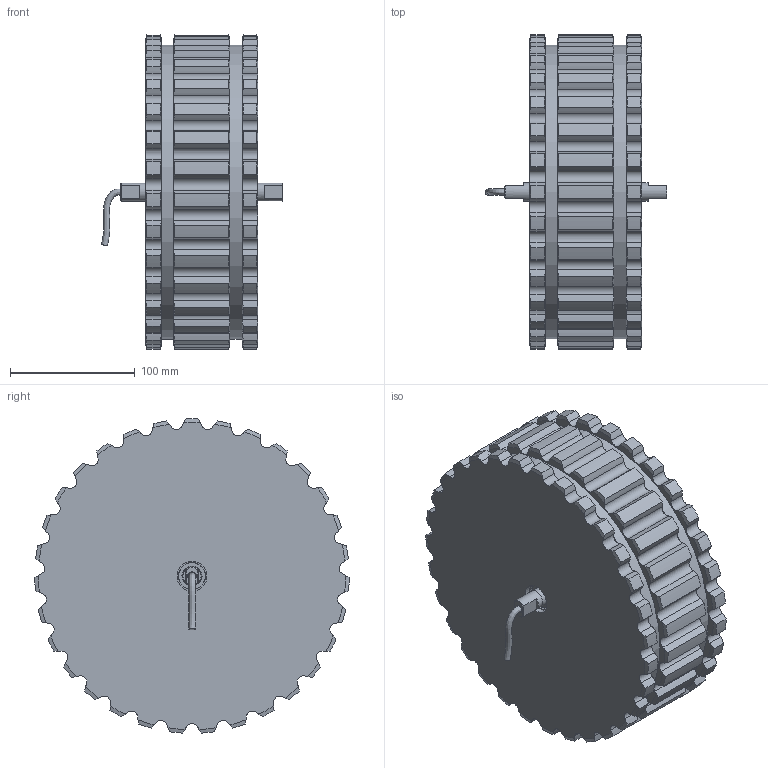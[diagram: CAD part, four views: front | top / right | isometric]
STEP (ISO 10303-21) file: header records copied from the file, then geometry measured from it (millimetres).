
FILE_DESCRIPTION((''),'2;1');
FILE_NAME('E:\SAT-STEP-DATEIEN-Scheibenantriebe\Scheibenantrieb-20-SW10-Z31-RB10-25.stp','2009-08-16T10:00:34',('Siegmund'),(''),'Autodesk Inventor 11','Autodesk Inventor 11','');
FILE_SCHEMA(('AUTOMOTIVE_DESIGN { 1 0 10303 214 1 1 1 1 }'));
Length unit declared in the file: millimetre
Products named in the file (5): Scheibenantrieb-20-SW10-Z31-RB10-25; 20-Achse-mit-SW; ZRGF-25-Bandage-31-20Nm; 6202; kabel-2
Assembly tree (5 placements, depth 2):
  Scheibenantrieb-20-SW10-Z31-RB10-25
    20-Achse-mit-SW
    ZRGF-25-Bandage-31-20Nm
    6202  x2
    kabel-2
Bounding box: 145.74 x 252.61 x 252.39 mm (x, y, z)
Volume: 4167605.9 mm3; surface area: 225909.6 mm2
Topology: 21 solids, 21 shells, 692 faces, 1959 edges, 1297 vertices
Faces by surface type: cylinder 403, cone 192, plane 43, bspline 32, sphere 14, torus 8
Full cylindrical faces by diameter (mm): 14 x2, 14.5 x4, 15 x4, 16 x1, 16.5 x1, 17.05 x1, 18.5 x1, 21.52 x4, 22 x2, 24 x2, 28.48 x4, 35 x3, 236 x2
Entity records: 23866 total; most frequent: CARTESIAN_POINT 6577, DIRECTION 3794, ORIENTED_EDGE 3652, EDGE_CURVE 1826, AXIS2_PLACEMENT_3D 1701, VERTEX_POINT 1223, CIRCLE 1050, EDGE_LOOP 723
